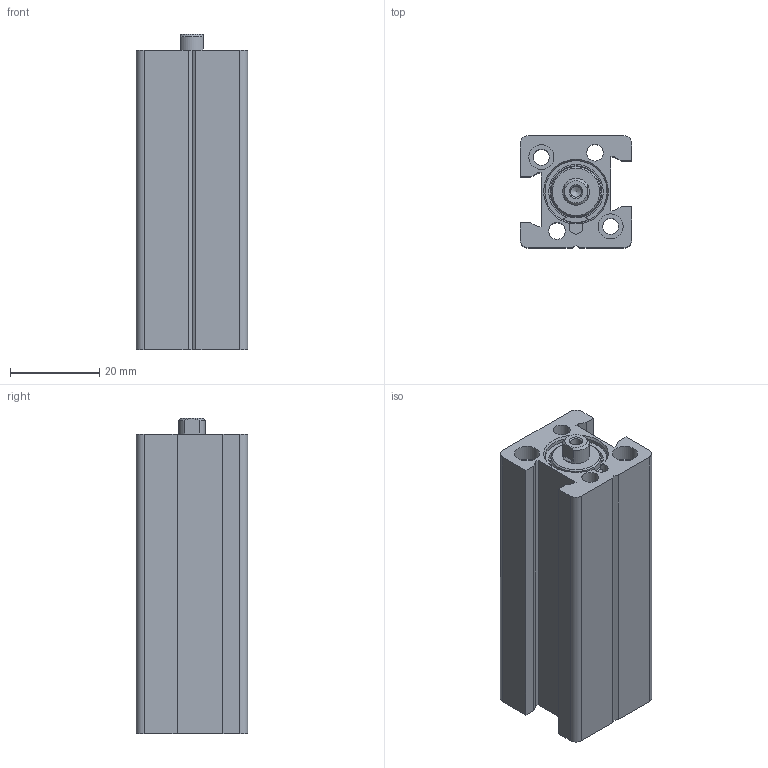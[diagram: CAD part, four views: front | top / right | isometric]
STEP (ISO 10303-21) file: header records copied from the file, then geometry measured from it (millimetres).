
FILE_DESCRIPTION(/* description */ ('Unknown'),/* implementation_level */ '2;1');
FILE_NAME(/* name */ 'FIN 12_40',/* time_stamp */ '2026-05-12T07:38:53+02:00',/* author */ ('Unknown'),/* organization */ ('Unknown'),/* preprocessor_version */ 'ST-DEVELOPER v18.102',/* originating_system */ 'Solid Edge',/* authorisation */ 'Unknown');
FILE_SCHEMA (('AUTOMOTIVE_DESIGN {1 0 10303 214 3 1 1}'));
Length unit declared in the file: millimetre
Products named in the file (4): FIN 12_40; Kolbenstange; Profilrohr; Kit
Assembly tree (3 placements, depth 2):
  FIN 12_40
    Kolbenstange
    Profilrohr
    Kit
Bounding box: 25 x 25 x 70.5 mm (x, y, z)
Volume: 27992.6 mm3; surface area: 17462.3 mm2
Topology: 3 solids, 3 shells, 109 faces, 260 edges, 168 vertices
Faces by surface type: plane 54, cylinder 36, cone 11, torus 7, bspline 1
Full cylindrical faces by diameter (mm): 1 x2, 2.459 x2, 3.6 x2, 3.8 x2, 4.134 x3, 5.6 x4, 6 x2, 9.337 x2, 9.35 x1, 11.2 x1, 12 x2, 13.7 x2
Entity records: 3807 total; most frequent: CARTESIAN_POINT 620, DIRECTION 507, ORIENTED_EDGE 412, AXIS2_PLACEMENT_3D 207, EDGE_CURVE 206, FACE_BOUND 172, EDGE_LOOP 171, VERTEX_POINT 152
